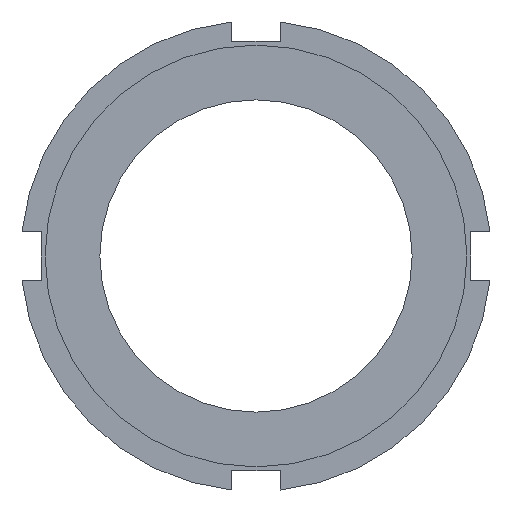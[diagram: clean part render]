
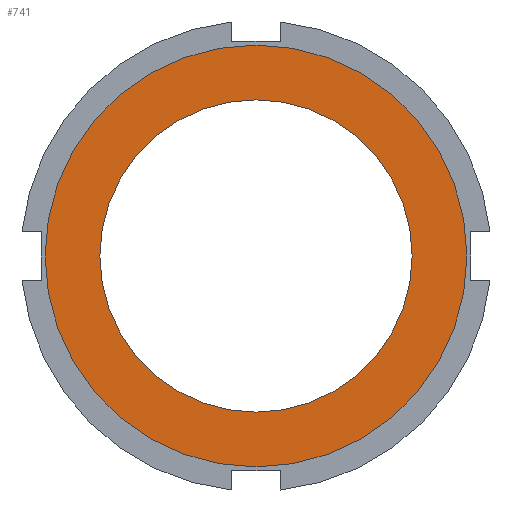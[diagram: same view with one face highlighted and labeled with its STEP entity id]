
A CAD part, left-side view. The second image highlights one B-rep face of the part: STEP entity #741.
In plain terms, the highlighted planar face has unit normal (-1, 0, 0).
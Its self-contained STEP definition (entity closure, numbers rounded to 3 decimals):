
#2 = VERTEX_POINT ( 'NONE', #76 ) ;
#20 = EDGE_LOOP ( 'NONE', ( #743, #683 ) ) ;
#32 = VERTEX_POINT ( 'NONE', #398 ) ;
#37 = ORIENTED_EDGE ( 'NONE', *, *, #646, .F. ) ;
#59 = EDGE_CURVE ( 'NONE', #32, #674, #482, .T. ) ;
#76 = CARTESIAN_POINT ( 'NONE',  ( 0., 0., -19.25 ) ) ;
#101 = CARTESIAN_POINT ( 'NONE',  ( 0., 0., 19.25 ) ) ;
#151 = CIRCLE ( 'NONE', #152, 26. ) ;
#152 = AXIS2_PLACEMENT_3D ( 'NONE', #153, #154, #155 ) ;
#153 = CARTESIAN_POINT ( 'NONE',  ( 0., 0., 0. ) ) ;
#154 = DIRECTION ( 'NONE',  ( -1., 0., 0. ) ) ;
#155 = DIRECTION ( 'NONE',  ( 0., 0., 1. ) ) ;
#220 = CIRCLE ( 'NONE', #221, 19.25 ) ;
#221 = AXIS2_PLACEMENT_3D ( 'NONE', #222, #223, #224 ) ;
#222 = CARTESIAN_POINT ( 'NONE',  ( 0., 0., 0. ) ) ;
#223 = DIRECTION ( 'NONE',  ( -1., 0., 0. ) ) ;
#224 = DIRECTION ( 'NONE',  ( 0., 0., 1. ) ) ;
#264 = EDGE_CURVE ( 'NONE', #423, #2, #392, .T. ) ;
#312 = FACE_BOUND ( 'NONE', #714, .T. ) ;
#313 = FACE_OUTER_BOUND ( 'NONE', #20, .T. ) ;
#314 = PLANE ( 'NONE',  #315 ) ;
#315 = AXIS2_PLACEMENT_3D ( 'NONE', #316, #317, #320 ) ;
#316 = CARTESIAN_POINT ( 'NONE',  ( 0., 19.25, 0. ) ) ;
#317 = DIRECTION ( 'NONE',  ( 1., 0., 0. ) ) ;
#320 = DIRECTION ( 'NONE',  ( 0., 0., -1. ) ) ;
#325 = CARTESIAN_POINT ( 'NONE',  ( 0., 0., -26. ) ) ;
#392 = CIRCLE ( 'NONE', #393, 19.25 ) ;
#393 = AXIS2_PLACEMENT_3D ( 'NONE', #394, #395, #396 ) ;
#394 = CARTESIAN_POINT ( 'NONE',  ( 0., 0., 0. ) ) ;
#395 = DIRECTION ( 'NONE',  ( -1., 0., 0. ) ) ;
#396 = DIRECTION ( 'NONE',  ( 0., 0., 1. ) ) ;
#398 = CARTESIAN_POINT ( 'NONE',  ( 0., 0., 26. ) ) ;
#423 = VERTEX_POINT ( 'NONE', #101 ) ;
#482 = CIRCLE ( 'NONE', #483, 26. ) ;
#483 = AXIS2_PLACEMENT_3D ( 'NONE', #489, #490, #491 ) ;
#489 = CARTESIAN_POINT ( 'NONE',  ( 0., 0., 0. ) ) ;
#490 = DIRECTION ( 'NONE',  ( -1., 0., 0. ) ) ;
#491 = DIRECTION ( 'NONE',  ( 0., 0., 1. ) ) ;
#606 = ORIENTED_EDGE ( 'NONE', *, *, #264, .F. ) ;
#646 = EDGE_CURVE ( 'NONE', #2, #423, #220, .T. ) ;
#674 = VERTEX_POINT ( 'NONE', #325 ) ;
#683 = ORIENTED_EDGE ( 'NONE', *, *, #770, .T. ) ;
#714 = EDGE_LOOP ( 'NONE', ( #606, #37 ) ) ;
#741 = ADVANCED_FACE ( 'NONE', ( #312, #313 ), #314, .F. ) ;
#743 = ORIENTED_EDGE ( 'NONE', *, *, #59, .T. ) ;
#770 = EDGE_CURVE ( 'NONE', #674, #32, #151, .T. ) ;
